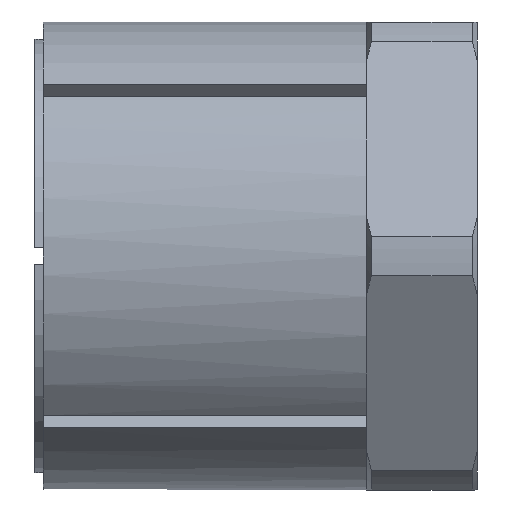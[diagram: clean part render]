
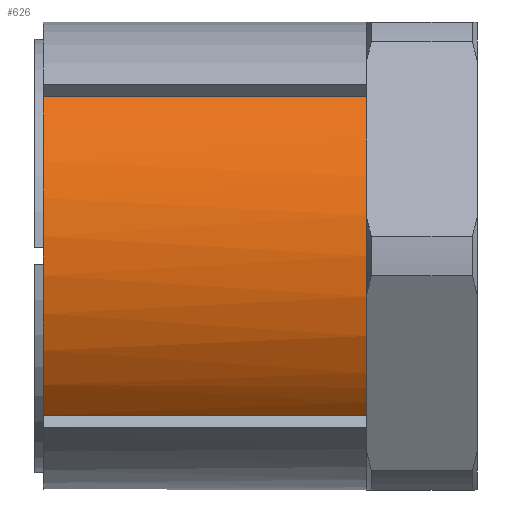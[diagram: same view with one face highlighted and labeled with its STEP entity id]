
A CAD part, front view. The second image highlights one B-rep face of the part: STEP entity #626.
In plain terms, the highlighted cylindrical face has radius 27.5 mm (diameter 55 mm), a partial arc.
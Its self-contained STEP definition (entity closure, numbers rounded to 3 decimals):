
#87 = AXIS2_PLACEMENT_3D ( 'NONE', #1061, #1047, #1045 ) ;
#91 = AXIS2_PLACEMENT_3D ( 'NONE', #1070, #1060, #1056 ) ;
#92 = AXIS2_PLACEMENT_3D ( 'NONE', #1055, #1053, #1052 ) ;
#95 = AXIS2_PLACEMENT_3D ( 'NONE', #1089, #1087, #1086 ) ;
#198 = CARTESIAN_POINT ( 'NONE',  ( 0., -20.14, 18.725 ) ) ;
#203 = CARTESIAN_POINT ( 'NONE',  ( 38., -20.14, 18.725 ) ) ;
#214 = CARTESIAN_POINT ( 'NONE',  ( 0., -20.14, -18.725 ) ) ;
#223 = CARTESIAN_POINT ( 'NONE',  ( 38., -23.816, -13.75 ) ) ;
#231 = CARTESIAN_POINT ( 'NONE',  ( 38., -20.14, -18.725 ) ) ;
#306 = CARTESIAN_POINT ( 'NONE',  ( 38., -23.816, 13.75 ) ) ;
#626 = ADVANCED_FACE ( 'NONE', ( #1596 ), #1603, .T. ) ;
#1042 = DIRECTION ( 'NONE',  ( 1., 0., 0. ) ) ;
#1044 = CARTESIAN_POINT ( 'NONE',  ( 0., -20.14, -18.725 ) ) ;
#1045 = DIRECTION ( 'NONE',  ( 0., 0., 1. ) ) ;
#1047 = DIRECTION ( 'NONE',  ( -1., 0., 0. ) ) ;
#1050 = DIRECTION ( 'NONE',  ( -1., 0., 0. ) ) ;
#1051 = CARTESIAN_POINT ( 'NONE',  ( 0., -20.14, 18.725 ) ) ;
#1052 = DIRECTION ( 'NONE',  ( 0., 0., 1. ) ) ;
#1053 = DIRECTION ( 'NONE',  ( -1., 0., 0. ) ) ;
#1055 = CARTESIAN_POINT ( 'NONE',  ( 38., 0., 0. ) ) ;
#1056 = DIRECTION ( 'NONE',  ( 0., 0., 1. ) ) ;
#1060 = DIRECTION ( 'NONE',  ( -1., 0., 0. ) ) ;
#1061 = CARTESIAN_POINT ( 'NONE',  ( 38., 0., 0. ) ) ;
#1070 = CARTESIAN_POINT ( 'NONE',  ( 38., 0., 0. ) ) ;
#1086 = DIRECTION ( 'NONE',  ( 0., 0., 1. ) ) ;
#1087 = DIRECTION ( 'NONE',  ( -1., 0., 0. ) ) ;
#1089 = CARTESIAN_POINT ( 'NONE',  ( 0., 0., 0. ) ) ;
#1423 = EDGE_LOOP ( 'NONE', ( #2049, #2051, #2040, #1528, #1527, #1526 ) ) ;
#1526 = ORIENTED_EDGE ( 'NONE', *, *, #2164, .T. ) ;
#1527 = ORIENTED_EDGE ( 'NONE', *, *, #2163, .T. ) ;
#1528 = ORIENTED_EDGE ( 'NONE', *, *, #2167, .T. ) ;
#1596 = FACE_OUTER_BOUND ( 'NONE', #1423, .T. ) ;
#1603 = CYLINDRICAL_SURFACE ( 'NONE', #2097, 27.5 ) ;
#1687 = CIRCLE ( 'NONE', #95, 27.5 ) ;
#1692 = LINE ( 'NONE', #1051, #1695 ) ;
#1695 = VECTOR ( 'NONE', #1050, 1000. ) ;
#1696 = LINE ( 'NONE', #1044, #1699 ) ;
#1698 = CIRCLE ( 'NONE', #91, 27.5 ) ;
#1699 = VECTOR ( 'NONE', #1042, 1000. ) ;
#1700 = CIRCLE ( 'NONE', #92, 27.5 ) ;
#1703 = CIRCLE ( 'NONE', #87, 27.5 ) ;
#2040 = ORIENTED_EDGE ( 'NONE', *, *, #2155, .F. ) ;
#2049 = ORIENTED_EDGE ( 'NONE', *, *, #2166, .T. ) ;
#2051 = ORIENTED_EDGE ( 'NONE', *, *, #2165, .T. ) ;
#2097 = AXIS2_PLACEMENT_3D ( 'NONE', #2479, #2480, #2482 ) ;
#2155 = EDGE_CURVE ( 'NONE', #2719, #2718, #1687, .T. ) ;
#2163 = EDGE_CURVE ( 'NONE', #2694, #2696, #1698, .T. ) ;
#2164 = EDGE_CURVE ( 'NONE', #2696, #2768, #1700, .T. ) ;
#2165 = EDGE_CURVE ( 'NONE', #2717, #2718, #1692, .T. ) ;
#2166 = EDGE_CURVE ( 'NONE', #2768, #2717, #1703, .T. ) ;
#2167 = EDGE_CURVE ( 'NONE', #2719, #2694, #1696, .T. ) ;
#2479 = CARTESIAN_POINT ( 'NONE',  ( 0., 0., 0. ) ) ;
#2480 = DIRECTION ( 'NONE',  ( -1., 0., 0. ) ) ;
#2482 = DIRECTION ( 'NONE',  ( 0., 0., 1. ) ) ;
#2694 = VERTEX_POINT ( 'NONE', #231 ) ;
#2696 = VERTEX_POINT ( 'NONE', #223 ) ;
#2717 = VERTEX_POINT ( 'NONE', #203 ) ;
#2718 = VERTEX_POINT ( 'NONE', #198 ) ;
#2719 = VERTEX_POINT ( 'NONE', #214 ) ;
#2768 = VERTEX_POINT ( 'NONE', #306 ) ;
